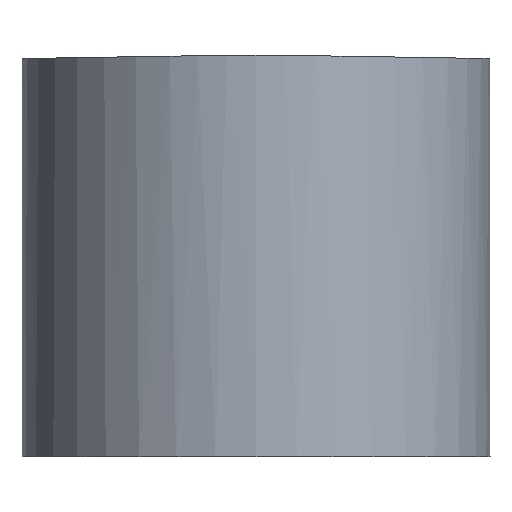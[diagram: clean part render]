
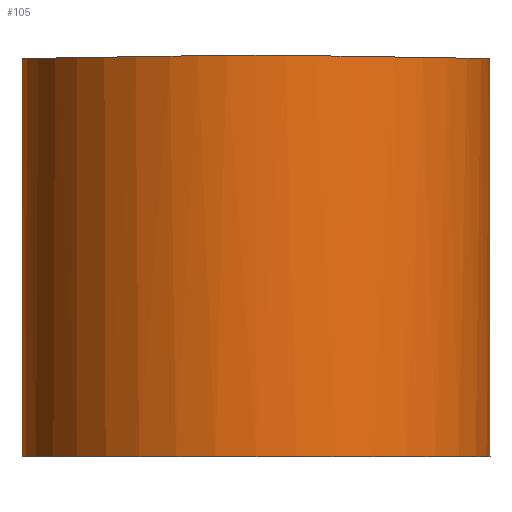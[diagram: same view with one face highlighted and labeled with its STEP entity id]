
A CAD part, left-side view. The second image highlights one B-rep face of the part: STEP entity #105.
In plain terms, the highlighted cylindrical face has radius 4.445 mm (diameter 8.89 mm), a full revolution.
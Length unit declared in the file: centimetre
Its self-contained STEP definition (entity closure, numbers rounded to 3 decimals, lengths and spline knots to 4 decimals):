
#34=CIRCLE('',#112,0.4445);
#35=CYLINDRICAL_SURFACE('',#111,0.4445);
#36=B_SPLINE_CURVE_WITH_KNOTS('',3,(#159,#160,#161,#162,#163,#164),.UNSPECIFIED.,
 .F.,.U.,(4,2,4),(0.,0.084,0.1675),.UNSPECIFIED.);
#37=B_SPLINE_CURVE_WITH_KNOTS('',3,(#168,#169,#170,#171,#172,#173),.UNSPECIFIED.,
 .F.,.U.,(4,2,4),(0.,0.0397,0.1677),.UNSPECIFIED.);
#38=B_SPLINE_CURVE_WITH_KNOTS('',3,(#205,#206,#207,#208,#209,#210),.UNSPECIFIED.,
 .F.,.U.,(4,2,4),(0.,0.0835,0.1675),.UNSPECIFIED.);
#39=B_SPLINE_CURVE_WITH_KNOTS('',3,(#211,#212,#213,#214,#215,#216),.UNSPECIFIED.,
 .F.,.U.,(4,2,4),(0.,0.0425,0.1676),.UNSPECIFIED.);
#48=VERTEX_POINT('',#130);
#49=VERTEX_POINT('',#131);
#50=VERTEX_POINT('',#165);
#51=VERTEX_POINT('',#167);
#52=VERTEX_POINT('',#176);
#53=VERTEX_POINT('',#177);
#54=VERTEX_POINT('',#219);
#55=ELLIPSE('',#108,0.4446,0.4445);
#56=ELLIPSE('',#110,0.4446,0.4445);
#57=EDGE_CURVE('',#48,#49,#55,.T.);
#59=EDGE_CURVE('',#50,#48,#36,.T.);
#61=EDGE_CURVE('',#49,#51,#37,.T.);
#62=EDGE_CURVE('',#52,#53,#56,.T.);
#64=EDGE_CURVE('',#53,#50,#38,.T.);
#65=EDGE_CURVE('',#51,#52,#39,.T.);
#66=EDGE_CURVE('',#54,#54,#34,.T.);
#79=ORIENTED_EDGE('',*,*,#62,.T.);
#80=ORIENTED_EDGE('',*,*,#64,.T.);
#81=ORIENTED_EDGE('',*,*,#59,.T.);
#82=ORIENTED_EDGE('',*,*,#57,.T.);
#83=ORIENTED_EDGE('',*,*,#61,.T.);
#84=ORIENTED_EDGE('',*,*,#65,.T.);
#85=ORIENTED_EDGE('',*,*,#66,.T.);
#91=EDGE_LOOP('',(#79,#80,#81,#82,#83,#84));
#92=EDGE_LOOP('',(#85));
#98=FACE_BOUND('',#91,.T.);
#99=FACE_BOUND('',#92,.T.);
#105=ADVANCED_FACE('',(#98,#99),#35,.T.);
#108=AXIS2_PLACEMENT_3D('',#129,#115,#116);
#110=AXIS2_PLACEMENT_3D('',#175,#120,#121);
#111=AXIS2_PLACEMENT_3D('',#217,#123,#124);
#112=AXIS2_PLACEMENT_3D('',#218,#125,#126);
#115=DIRECTION('',(0.,0.016,-1.));
#116=DIRECTION('',(0.,0.445,0.007));
#120=DIRECTION('',(0.,-0.016,-1.));
#121=DIRECTION('',(0.,0.445,-0.007));
#123=DIRECTION('',(0.,0.,1.));
#124=DIRECTION('',(0.445,0.,0.));
#125=DIRECTION('',(0.,0.,1.));
#126=DIRECTION('',(0.445,0.,0.));
#129=CARTESIAN_POINT('',(0.,0.,0.7633));
#130=CARTESIAN_POINT('',(0.4133,-0.1635,0.7606));
#131=CARTESIAN_POINT('',(-0.4133,-0.1635,0.7606));
#159=CARTESIAN_POINT('',(0.4445,0.,0.762));
#160=CARTESIAN_POINT('',(0.4445,-0.028,0.762));
#161=CARTESIAN_POINT('',(0.4419,-0.0559,0.7619));
#162=CARTESIAN_POINT('',(0.4314,-0.1108,0.7614));
#163=CARTESIAN_POINT('',(0.4236,-0.1376,0.761));
#164=CARTESIAN_POINT('',(0.4133,-0.1635,0.7606));
#165=CARTESIAN_POINT('',(0.4445,0.,0.762));
#167=CARTESIAN_POINT('',(-0.4445,0.,0.762));
#168=CARTESIAN_POINT('',(-0.4133,-0.1635,0.7606));
#169=CARTESIAN_POINT('',(-0.4182,-0.1512,0.7608));
#170=CARTESIAN_POINT('',(-0.4225,-0.1387,0.761));
#171=CARTESIAN_POINT('',(-0.4384,-0.0851,0.7617));
#172=CARTESIAN_POINT('',(-0.4445,-0.0427,0.762));
#173=CARTESIAN_POINT('',(-0.4445,0.,0.762));
#175=CARTESIAN_POINT('',(0.,0.,0.7633));
#176=CARTESIAN_POINT('',(-0.4133,0.1635,0.7606));
#177=CARTESIAN_POINT('',(0.4133,0.1635,0.7606));
#205=CARTESIAN_POINT('',(0.4133,0.1635,0.7606));
#206=CARTESIAN_POINT('',(0.4236,0.1376,0.761));
#207=CARTESIAN_POINT('',(0.4314,0.1108,0.7614));
#208=CARTESIAN_POINT('',(0.4419,0.056,0.7619));
#209=CARTESIAN_POINT('',(0.4445,0.028,0.762));
#210=CARTESIAN_POINT('',(0.4445,0.,0.762));
#211=CARTESIAN_POINT('',(-0.4445,0.,0.762));
#212=CARTESIAN_POINT('',(-0.4445,0.0142,0.762));
#213=CARTESIAN_POINT('',(-0.4438,0.0284,0.762));
#214=CARTESIAN_POINT('',(-0.4385,0.084,0.7617));
#215=CARTESIAN_POINT('',(-0.4287,0.1247,0.7613));
#216=CARTESIAN_POINT('',(-0.4133,0.1635,0.7606));
#217=CARTESIAN_POINT('',(0.,0.,0.));
#218=CARTESIAN_POINT('',(0.,0.,0.));
#219=CARTESIAN_POINT('',(0.4445,0.,0.));
